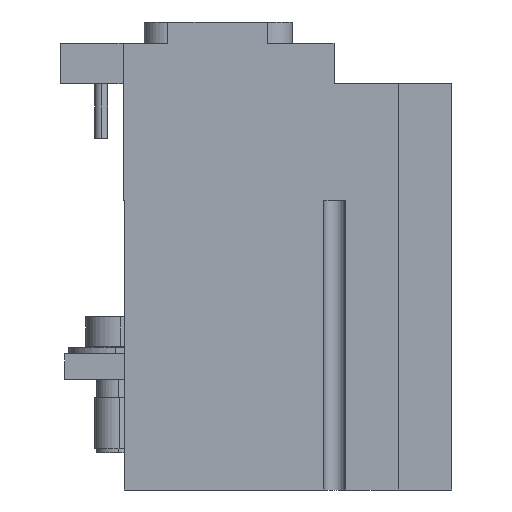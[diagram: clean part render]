
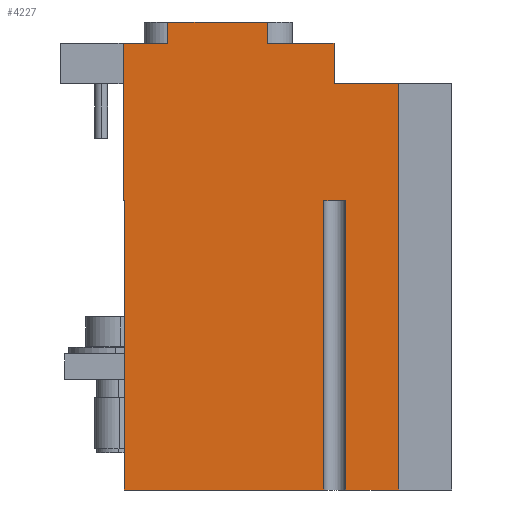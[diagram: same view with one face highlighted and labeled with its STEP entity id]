
A CAD part, left-side view. The second image highlights one B-rep face of the part: STEP entity #4227.
In plain terms, the highlighted planar face has unit normal (-1, 0, 0).
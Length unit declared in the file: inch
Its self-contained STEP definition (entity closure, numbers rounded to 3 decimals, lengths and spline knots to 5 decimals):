
#549=DIRECTION('',(0.,0.,-1.));
#550=VECTOR('',#549,0.19685);
#551=CARTESIAN_POINT('',(0.,2.62646,
-0.00017));
#552=LINE('',#551,#550);
#553=DIRECTION('',(0.,-1.,0.));
#554=VECTOR('',#553,0.92015);
#555=CARTESIAN_POINT('',(0.,2.62646,
-0.00017));
#556=LINE('',#555,#554);
#557=DIRECTION('',(0.,-1.,0.));
#558=VECTOR('',#557,0.6171);
#559=CARTESIAN_POINT('',(0.,1.70631,
-0.19702));
#560=LINE('',#559,#558);
#561=DIRECTION('',(0.,-0.017,-1.));
#562=VECTOR('',#561,0.37407);
#563=CARTESIAN_POINT('',(0.,1.08921,
-0.19702));
#564=LINE('',#563,#562);
#565=DIRECTION('',(0.,-1.,0.));
#566=VECTOR('',#565,0.59055);
#567=CARTESIAN_POINT('',(0.,1.08268,
-0.57104));
#568=LINE('',#567,#566);
#569=DIRECTION('',(0.,0.,-1.));
#570=VECTOR('',#569,3.75984);
#571=CARTESIAN_POINT('',(0.,0.49213,
-0.57104));
#572=LINE('',#571,#570);
#573=DIRECTION('',(0.,1.,0.));
#574=VECTOR('',#573,0.00984);
#575=CARTESIAN_POINT('',(0.,3.0315,
-1.65371));
#576=LINE('',#575,#574);
#581=DIRECTION('',(0.,0.,1.));
#582=VECTOR('',#581,0.19685);
#583=CARTESIAN_POINT('',(0.,1.70631,
-0.19702));
#584=LINE('',#583,#582);
#1088=DIRECTION('',(0.,-1.,0.));
#1089=VECTOR('',#1088,1.8486);
#1090=CARTESIAN_POINT('',(0.,3.0315,
-4.33088));
#1091=LINE('',#1090,#1089);
#1102=DIRECTION('',(0.,-1.,0.));
#1103=VECTOR('',#1102,0.49033);
#1104=CARTESIAN_POINT('',(0.,0.98246,
-4.33088));
#1105=LINE('',#1104,#1103);
#1502=DIRECTION('',(0.,1.,0.));
#1503=VECTOR('',#1502,0.41488);
#1504=CARTESIAN_POINT('',(0.,2.62646,
-0.19702));
#1505=LINE('',#1504,#1503);
#1580=DIRECTION('',(0.,0.,-1.));
#1581=VECTOR('',#1580,1.45669);
#1582=CARTESIAN_POINT('',(0.,3.04134,
-0.19702));
#1583=LINE('',#1582,#1581);
#1956=DIRECTION('',(0.,0.,-1.));
#1957=VECTOR('',#1956,2.67717);
#1958=CARTESIAN_POINT('',(0.,3.0315,
-1.65371));
#1959=LINE('',#1958,#1957);
#2004=DIRECTION('',(0.,0.,-1.));
#2005=VECTOR('',#2004,2.67717);
#2006=CARTESIAN_POINT('',(0.,0.98246,
-1.65371));
#2007=LINE('',#2006,#2005);
#2008=DIRECTION('',(0.,0.,1.));
#2009=VECTOR('',#2008,2.67717);
#2010=CARTESIAN_POINT('',(0.,1.1829,
-4.33088));
#2011=LINE('',#2010,#2009);
#2012=DIRECTION('',(0.,-1.,0.));
#2013=VECTOR('',#2012,0.20044);
#2014=CARTESIAN_POINT('',(0.,1.1829,
-1.65371));
#2015=LINE('',#2014,#2013);
#2667=CARTESIAN_POINT('',(0.,1.70631,
-0.00017));
#2669=VERTEX_POINT('',#2667);
#2763=CARTESIAN_POINT('',(0.,3.04134,
-0.19702));
#2765=VERTEX_POINT('',#2763);
#2852=CARTESIAN_POINT('',(0.,3.04134,
-1.65371));
#2853=VERTEX_POINT('',#2852);
#2988=CARTESIAN_POINT('',(0.,3.0315,
-4.33088));
#2989=VERTEX_POINT('',#2988);
#2990=CARTESIAN_POINT('',(0.,1.1829,
-4.33088));
#2991=VERTEX_POINT('',#2990);
#2993=CARTESIAN_POINT('',(0.,0.98246,
-4.33088));
#2995=VERTEX_POINT('',#2993);
#2996=CARTESIAN_POINT('',(0.,0.49213,
-4.33088));
#2997=VERTEX_POINT('',#2996);
#3209=CARTESIAN_POINT('',(0.,0.49213,
-0.57104));
#3210=VERTEX_POINT('',#3209);
#3211=CARTESIAN_POINT('',(0.,1.08268,
-0.57104));
#3212=VERTEX_POINT('',#3211);
#3275=CARTESIAN_POINT('',(0.,1.70631,
-0.19702));
#3276=VERTEX_POINT('',#3275);
#3277=CARTESIAN_POINT('',(0.,1.08921,
-0.19702));
#3278=VERTEX_POINT('',#3277);
#3279=CARTESIAN_POINT('',(0.,0.98246,
-1.65371));
#3280=VERTEX_POINT('',#3279);
#3281=CARTESIAN_POINT('',(0.,1.1829,
-1.65371));
#3282=VERTEX_POINT('',#3281);
#3283=CARTESIAN_POINT('',(0.,3.0315,
-1.65371));
#3284=VERTEX_POINT('',#3283);
#3398=CARTESIAN_POINT('',(0.,2.62646,
-0.00017));
#3399=VERTEX_POINT('',#3398);
#3400=CARTESIAN_POINT('',(0.,2.62646,
-0.19702));
#3401=VERTEX_POINT('',#3400);
#4191=CARTESIAN_POINT('',(0.,0.49213,
-4.33088));
#4192=DIRECTION('',(-1.,0.,0.));
#4193=DIRECTION('',(0.,1.,0.));
#4194=AXIS2_PLACEMENT_3D('',#4191,#4192,#4193);
#4195=PLANE('',#4194);
#4196=ORIENTED_EDGE('',*,*,#4184,.F.);
#4197=ORIENTED_EDGE('',*,*,#3546,.T.);
#4199=ORIENTED_EDGE('',*,*,#4198,.F.);
#4200=ORIENTED_EDGE('',*,*,#3941,.T.);
#4202=ORIENTED_EDGE('',*,*,#4201,.T.);
#4204=ORIENTED_EDGE('',*,*,#4203,.T.);
#4206=ORIENTED_EDGE('',*,*,#4205,.T.);
#4208=ORIENTED_EDGE('',*,*,#4207,.F.);
#4210=ORIENTED_EDGE('',*,*,#4209,.F.);
#4212=ORIENTED_EDGE('',*,*,#4211,.F.);
#4214=ORIENTED_EDGE('',*,*,#4213,.F.);
#4216=ORIENTED_EDGE('',*,*,#4215,.F.);
#4218=ORIENTED_EDGE('',*,*,#4217,.F.);
#4220=ORIENTED_EDGE('',*,*,#4219,.T.);
#4222=ORIENTED_EDGE('',*,*,#4221,.F.);
#4224=ORIENTED_EDGE('',*,*,#4223,.F.);
#4225=EDGE_LOOP('',(#4196,#4197,#4199,#4200,#4202,#4204,#4206,#4208,#4210,#4212,
#4214,#4216,#4218,#4220,#4222,#4224));
#4226=FACE_OUTER_BOUND('',#4225,.F.);
#4227=ADVANCED_FACE('',(#4226),#4195,.T.);
#3546=EDGE_CURVE('',#3399,#2669,#556,.T.);
#3941=EDGE_CURVE('',#3276,#3278,#560,.T.);
#4184=EDGE_CURVE('',#3399,#3401,#552,.T.);
#4198=EDGE_CURVE('',#3276,#2669,#584,.T.);
#4201=EDGE_CURVE('',#3278,#3212,#564,.T.);
#4203=EDGE_CURVE('',#3212,#3210,#568,.T.);
#4205=EDGE_CURVE('',#3210,#2997,#572,.T.);
#4207=EDGE_CURVE('',#2995,#2997,#1105,.T.);
#4209=EDGE_CURVE('',#3280,#2995,#2007,.T.);
#4211=EDGE_CURVE('',#3282,#3280,#2015,.T.);
#4213=EDGE_CURVE('',#2991,#3282,#2011,.T.);
#4215=EDGE_CURVE('',#2989,#2991,#1091,.T.);
#4217=EDGE_CURVE('',#3284,#2989,#1959,.T.);
#4219=EDGE_CURVE('',#3284,#2853,#576,.T.);
#4221=EDGE_CURVE('',#2765,#2853,#1583,.T.);
#4223=EDGE_CURVE('',#3401,#2765,#1505,.T.);
